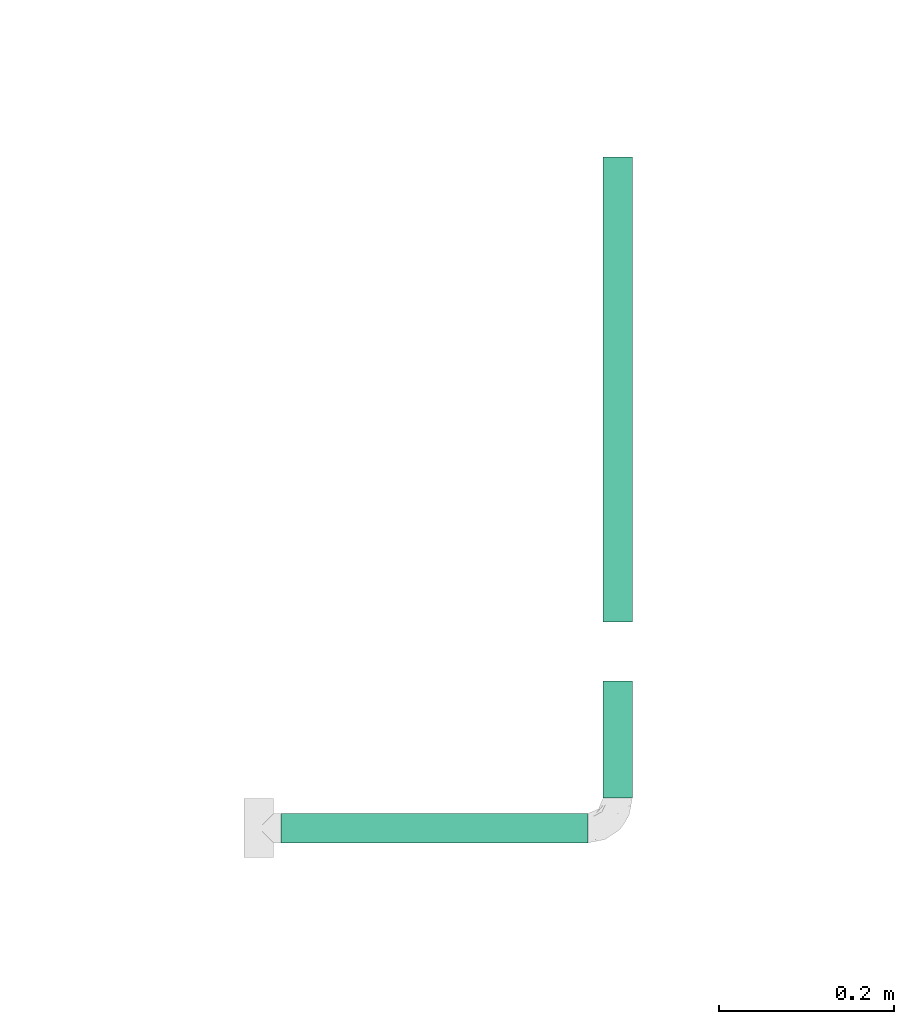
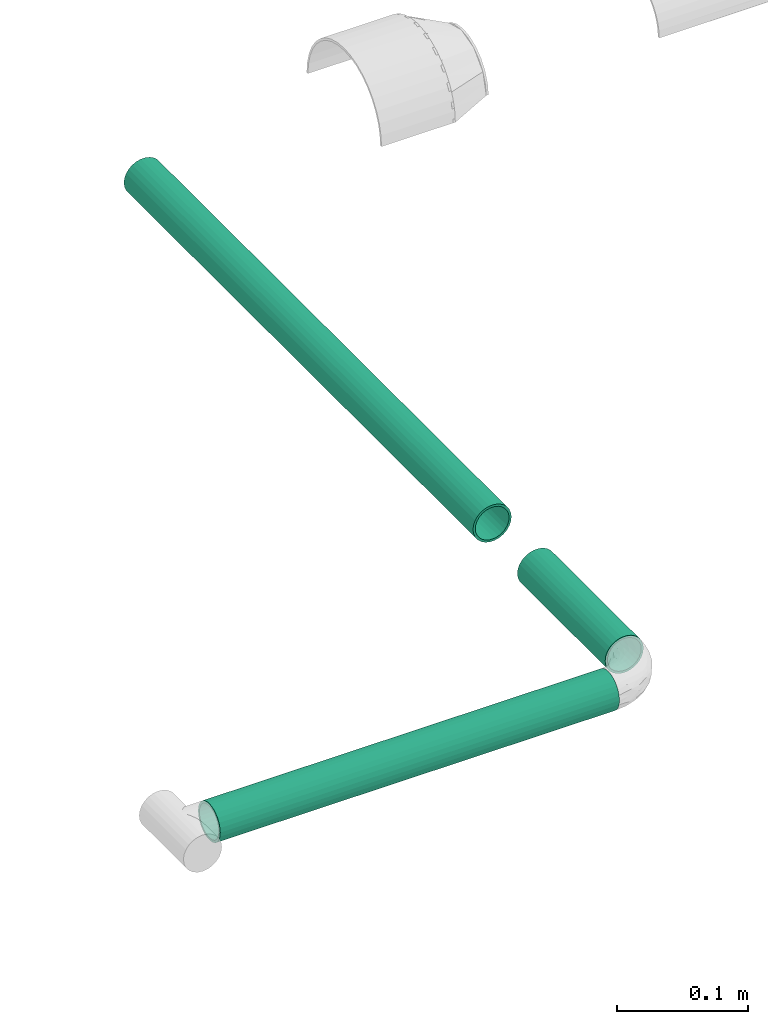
# One storey, part 14 of 63: 3 flow segments.
"""IFC2X3 building model written with IfcOpenShell, lengths in millimetres."""

import ifcopenshell
import ifcopenshell.guid

model = None  # the IFC model being written
_history = None  # IfcOwnerHistory: only IFC2X3 demands one
_inside = {}  # id of a spatial element -> (the spatial element, [elements in it])
_under = {}  # id of a project, library or spatial element -> (it, [spatial elements below it])
_declared = {}  # id of a project -> (the project, [libraries it declares])
_typed = {}  # id of a type object -> (the type object, [elements of that type])
_made_of = {}  # id of a material, layer set ... -> (it, [elements and type objects made of it])


def new_model(schema):
    """Start an empty IFC model of exactly this schema.

    Asked for "IFC4X3", IfcOpenShell would pick the latest addendum, in which some entities
    have other attributes; the version numbers below select the first issue.
    IFC2X3 requires an IfcOwnerHistory on every rooted entity: one is made here for all.
    """
    global model, _history
    if schema == "IFC4X3":
        model = ifcopenshell.file(schema_version=(4, 3, 0, 0))
    else:
        model = ifcopenshell.file(schema=schema)
    _inside.clear()
    _under.clear()
    _declared.clear()
    _typed.clear()
    _made_of.clear()
    _history = None
    if model.schema == "IFC2X3":
        org = make("IfcOrganization", Name="unknown")
        user = make(
            "IfcPersonAndOrganization",
            ThePerson=make("IfcPerson", FamilyName="unknown"),
            TheOrganization=org,
        )
        app = make(
            "IfcApplication",
            ApplicationDeveloper=org,
            Version="unknown",
            ApplicationFullName="unknown",
            ApplicationIdentifier="unknown",
        )
        _history = make(
            "IfcOwnerHistory",
            OwningUser=user,
            OwningApplication=app,
            ChangeAction="ADDED",
            CreationDate=0,
        )
    return model


def make(cls, **values):
    """One entity of the class cls with the attributes given. An attribute that is None is left unset."""
    return model.create_entity(
        cls, **{name: value for name, value in values.items() if value is not None}
    )


def entity(cls, *values):
    """Any entity or typed value of the class cls, its attributes in the order of the schema. None: left unset."""
    e = model.create_entity(cls)
    for i, value in enumerate(values):
        if value is not None:
            e[i] = value
    return e


def rooted(cls, **values):
    """An entity with a GlobalId (a new one), such as an element, a storey or a relation."""
    return make(cls, GlobalId=ifcopenshell.guid.new(), OwnerHistory=_history, **values)


def si_unit(unit_type, name, prefix=None):
    """IfcSIUnit, for example si_unit("LENGTHUNIT", "METRE", prefix="MILLI")."""
    return make("IfcSIUnit", UnitType=unit_type, Prefix=prefix, Name=name)


def converted_unit(unit_type, name, factor, base, dimensions=None, offset=None):
    """IfcConversionBasedUnit, such as the inch: factor (a typed value) times the base unit."""
    return make(
        "IfcConversionBasedUnit"
        if offset is None
        else "IfcConversionBasedUnitWithOffset",
        ConversionOffset=offset,
        Dimensions=None
        if dimensions is None
        else entity("IfcDimensionalExponents", *dimensions),
        UnitType=unit_type,
        Name=name,
        ConversionFactor=make(
            "IfcMeasureWithUnit", ValueComponent=factor, UnitComponent=base
        ),
    )


def derived_unit(unit_type, elements):
    """IfcDerivedUnit: a product of units, each with its exponent."""
    return make(
        "IfcDerivedUnit",
        Elements=[
            make("IfcDerivedUnitElement", Unit=unit, Exponent=power)
            for unit, power in elements
        ],
        UnitType=unit_type,
    )


def assignment(units):
    """IfcUnitAssignment: the units of a project."""
    return None if units is None else make("IfcUnitAssignment", Units=units)


def point(xyz):
    """IfcCartesianPoint."""
    return None if xyz is None else make("IfcCartesianPoint", Coordinates=xyz)


def direction(xyz):
    """IfcDirection."""
    return None if xyz is None else make("IfcDirection", DirectionRatios=xyz)


def frame(location, z_axis=None, x_axis=None):
    """IfcAxis2Placement3D, a coordinate frame: its origin and axes. An axis left out is left unset."""
    return make(
        "IfcAxis2Placement3D",
        Location=point(location),
        Axis=direction(z_axis),
        RefDirection=direction(x_axis),
    )


def frame_2d(location, x_axis=None):
    """IfcAxis2Placement2D, a coordinate frame in the plane: its origin and x axis."""
    return make(
        "IfcAxis2Placement2D", Location=point(location), RefDirection=direction(x_axis)
    )


def origin_with_axes():
    """The frame at (0, 0, 0) with the z axis (0, 0, 1) and the x axis (1, 0, 0) written out."""
    return frame((0.0, 0.0, 0.0), z_axis=(0.0, 0.0, 1.0), x_axis=(1.0, 0.0, 0.0))


def origin_2d_with_axis():
    """The frame at (0, 0) in the plane with the x axis (1, 0) written out."""
    return frame_2d((0.0, 0.0), x_axis=(1.0, 0.0))


def place(relative_to, where):
    """IfcLocalPlacement: puts the frame where relative to a parent placement (None: the world)."""
    return make(
        "IfcLocalPlacement", PlacementRelTo=relative_to, RelativePlacement=where
    )


def context(
    kind, dimensions, precision=None, world=None, true_north=None, identifier=None
):
    """IfcGeometricRepresentationContext, for example the 3D "Model" context."""
    return make(
        "IfcGeometricRepresentationContext",
        ContextIdentifier=identifier,
        ContextType=kind,
        CoordinateSpaceDimension=dimensions,
        Precision=precision,
        WorldCoordinateSystem=world,
        TrueNorth=true_north,
    )


def subcontext(parent, identifier, kind, view, scale=None):
    """IfcGeometricRepresentationSubContext, for example "Body" below "Model"."""
    return make(
        "IfcGeometricRepresentationSubContext",
        ContextIdentifier=identifier,
        ContextType=kind,
        ParentContext=parent,
        TargetScale=scale,
        TargetView=view,
    )


def project(units=None, contexts=None):
    """IfcProject with its units and contexts."""
    return rooted(
        "IfcProject",
        Name="project",
        RepresentationContexts=contexts,
        UnitsInContext=assignment(units),
    )


def spatial(cls, under=None, at=None, **own):
    """A site, building, storey or space (cls), placed at a placement, below another one or the project."""
    s = rooted(cls, ObjectPlacement=at, **own)
    if under is not None:
        _under.setdefault(under.id(), (under, []))[1].append(s)
    return s


def profile(cls, at=None, kind="AREA", **sizes):
    """A parametric profile (cls). Its sizes go by their IFC names, for example OverallWidth=200.0."""
    return make(cls, ProfileType=kind, Position=at, **sizes)


def hollow_circle(**sizes):
    """IfcCircleHollowProfileDef."""
    return profile("IfcCircleHollowProfileDef", **sizes)


def extrude(swept, where, along, depth):
    """IfcExtrudedAreaSolid: the profile swept, set in the frame where, extruded along a direction by depth."""
    return make(
        "IfcExtrudedAreaSolid",
        SweptArea=swept,
        Position=where,
        ExtrudedDirection=direction(along),
        Depth=depth,
    )


def shape(context_of_items, identifier, shape_type, items):
    """IfcShapeRepresentation: the items that make up one representation, for example the "Body"."""
    return make(
        "IfcShapeRepresentation",
        ContextOfItems=context_of_items,
        RepresentationIdentifier=identifier,
        RepresentationType=shape_type,
        Items=items,
    )


def source(mapping_origin, context_of_items, identifier, shape_type, items):
    """IfcRepresentationMap: a shape defined once, which mapped items show again and again."""
    return make(
        "IfcRepresentationMap",
        MappingOrigin=mapping_origin,
        MappedRepresentation=shape(context_of_items, identifier, shape_type, items),
    )


def transform(
    local_origin,
    x_axis=None,
    y_axis=None,
    z_axis=None,
    scale=None,
    scale2=None,
    scale3=None,
    uniform=True,
):
    """IfcCartesianTransformationOperator3D, or its non-uniform kind. x_axis, y_axis, z_axis: its Axis1, 2, 3."""
    if uniform:
        return make(
            "IfcCartesianTransformationOperator3D",
            Axis1=direction(x_axis),
            Axis2=direction(y_axis),
            LocalOrigin=point(local_origin),
            Scale=scale,
            Axis3=direction(z_axis),
        )
    return make(
        "IfcCartesianTransformationOperator3DnonUniform",
        Axis1=direction(x_axis),
        Axis2=direction(y_axis),
        LocalOrigin=point(local_origin),
        Scale=scale,
        Axis3=direction(z_axis),
        Scale2=scale2,
        Scale3=scale3,
    )


def mapped(mapping_source, mapping_target):
    """IfcMappedItem: shows the shape of a source again, moved by a transform."""
    return make(
        "IfcMappedItem", MappingSource=mapping_source, MappingTarget=mapping_target
    )


def made_of(thing, what):
    """Note that an element or type object is made of a material, layer set ...; save() writes the relation."""
    if what is not None:
        _made_of.setdefault(what.id(), (what, []))[1].append(thing)
    return thing


def type_object(cls, material=None, **own):
    """A type object (cls), such as IfcWallType, which elements share."""
    return made_of(rooted(cls, **own), material)


def element(
    cls,
    number,
    at=None,
    inside=None,
    cuts=None,
    type_object=None,
    material=None,
    context=None,
    identifier="Body",
    shape_type=None,
    held_by="IfcProductDefinitionShape",
    body=None,
    shapes=None,
    **own,
):
    """One element of the class cls, such as IfcWall. Its Tag is "e" and its number.

    at: its placement. inside: the storey or other place that contains it. cuts: it is an
    opening in that element (IfcRelVoidsElement). A single representation is given by context,
    identifier, shape_type and body (its items); several are given by shapes. held_by: the class
    of the entity that holds the representations. save() writes the other relations.
    """
    e = rooted(cls, Tag="e%d" % number, ObjectPlacement=at, **own)
    if body is not None:
        shapes = [shape(context, identifier, shape_type, body)]
    if shapes is not None:
        e.Representation = make(held_by, Representations=shapes)
    if inside is not None:
        _inside.setdefault(inside.id(), (inside, []))[1].append(e)
    if cuts is not None:
        rooted(
            "IfcRelVoidsElement", RelatingBuildingElement=cuts, RelatedOpeningElement=e
        )
    if type_object is not None:
        _typed.setdefault(type_object.id(), (type_object, []))[1].append(e)
    return made_of(e, material)


def aggregate(whole, parts):
    """IfcRelAggregates: a whole, such as a stair, and the parts it consists of."""
    return rooted("IfcRelAggregates", RelatingObject=whole, RelatedObjects=parts)


def save(model, path):
    """Write the relations noted so far, then the file.

    IfcRelAggregates (storeys below a building ...), IfcRelContainedInSpatialStructure (elements
    in a storey), IfcRelDefinesByType, IfcRelAssociatesMaterial and IfcRelDeclares: one each for
    every whole, place, type object, material and project.
    """
    for whole, parts in _under.values():
        aggregate(whole, parts)
    for where, things in _inside.values():
        rooted(
            "IfcRelContainedInSpatialStructure",
            RelatedElements=things,
            RelatingStructure=where,
        )
    for kind, things in _typed.values():
        rooted("IfcRelDefinesByType", RelatedObjects=things, RelatingType=kind)
    for what, things in _made_of.values():
        rooted("IfcRelAssociatesMaterial", RelatedObjects=things, RelatingMaterial=what)
    for by, libraries in _declared.values():
        rooted("IfcRelDeclares", RelatingContext=by, RelatedDefinitions=libraries)
    model.write(path)


model = new_model("IFC2X3")

# Units and contexts
model_context = context("Model", 3, precision=0.01, world=frame((0.0, 4.29681676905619e-09, 0.0)), true_north=direction((4.01073788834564e-13, 1.0)))
plan_context = context("Plan", 3, precision=0.01, world=frame((0.0, 4.29681676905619e-09, 0.0)), true_north=direction((4.01073788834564e-13, 1.0)))
body_context = subcontext(model_context, "Body", "Model", "MODEL_VIEW")
ifc_project = project(units=[converted_unit("PLANEANGLEUNIT", "DEGREE", entity("IfcPositiveLengthMeasure", 0.0174532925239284), si_unit("PLANEANGLEUNIT", "RADIAN"), dimensions=[0, 0, 0, 0, 0, 0, 0]), si_unit("AREAUNIT", "SQUARE_METRE"), si_unit("LENGTHUNIT", "METRE", prefix="MILLI"), si_unit("MASSUNIT", "GRAM", prefix="KILO"), si_unit("POWERUNIT", "WATT"), si_unit("PRESSUREUNIT", "PASCAL", prefix="KILO"), si_unit("FORCEUNIT", "NEWTON", prefix="KILO"), si_unit("ELECTRICVOLTAGEUNIT", "VOLT"), si_unit("ELECTRICCURRENTUNIT", "AMPERE"), si_unit("THERMODYNAMICTEMPERATUREUNIT", "DEGREE_CELSIUS"), si_unit("TIMEUNIT", "SECOND"), si_unit("VOLUMEUNIT", "CUBIC_METRE"), derived_unit("LINEARVELOCITYUNIT", [(si_unit("LENGTHUNIT", "METRE"), 1), (si_unit("TIMEUNIT", "SECOND"), -1)]), derived_unit("VOLUMETRICFLOWRATEUNIT", [(si_unit("VOLUMEUNIT", "CUBIC_METRE"), 1), (si_unit("TIMEUNIT", "SECOND"), -1)]), derived_unit("THERMALTRANSMITTANCEUNIT", [(si_unit("POWERUNIT", "WATT"), 1), (si_unit("THERMODYNAMICTEMPERATUREUNIT", "KELVIN"), -1), (si_unit("AREAUNIT", "SQUARE_METRE"), -1)]), derived_unit("SOUNDPRESSUREUNIT", [(si_unit("PRESSUREUNIT", "PASCAL"), 1)])], contexts=[model_context, plan_context])

# Site, building, storey
site_placement = place(None, frame((0.0, -4.29681676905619e-09, 0.0), z_axis=(0.0, 0.0, 1.0), x_axis=(1.0, 0.0, 0.0)))
site = spatial("IfcSite", under=ifc_project, at=site_placement, CompositionType="ELEMENT")
building_placement = place(site_placement, frame((0.0, 4.29681676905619e-09, 0.0), z_axis=(0.0, 0.0, 1.0), x_axis=(1.0, 0.0, 0.0)))
building = spatial("IfcBuilding", under=site, at=building_placement, Name="mc-building", CompositionType="ELEMENT")
storey_placement = place(building_placement, frame((0.0, 0.0, 207370.0), z_axis=(0.0, 0.0, 1.0), x_axis=(1.0, 0.0, 0.0)))
storey = spatial("IfcBuildingStorey", under=building, at=storey_placement, Name="Nivå E", CompositionType="ELEMENT", Elevation=207370.0)

# Flow segments
pipe_segment_type = type_object("IfcPipeSegmentType", Name="Stålrør normaltykke", PredefinedType="RIGIDSEGMENT")
shared_shape_1 = source(origin_with_axes(), body_context, "Body", "SweptSolid", [
    extrude(hollow_circle(Radius=16.9, WallThickness=2.0, at=origin_2d_with_axis()), frame((0.0, 0.0, 0.0), z_axis=(1.0, 0.0, 0.0), x_axis=(0.0, 1.0, 0.0)), (0.0, 0.0, 1.0), 133.9),
])
flow_segment_1_placement = place(storey_placement, frame((725000.0, 436166.2, 7130.0), z_axis=(0.0, 0.0, 1.0), x_axis=(0.0, -1.0, 0.0)))
element("IfcFlowSegment", 1, at=flow_segment_1_placement, inside=storey, type_object=pipe_segment_type, Name="Stålrør normaltykke", context=body_context, shape_type="MappedRepresentation", body=[
    mapped(shared_shape_1, transform((0.0, 0.0, 0.0), scale=1.0)),
])
shared_shape_2 = source(origin_with_axes(), body_context, "Body", "SweptSolid", [
    extrude(hollow_circle(Radius=16.9, WallThickness=2.0, at=origin_2d_with_axis()), frame((0.0, 0.0, 0.0), z_axis=(1.0, 0.0, 0.0), x_axis=(0.0, 1.0, 0.0)), (0.0, 0.0, 1.0), 351.5),
])
flow_segment_2_placement = place(storey_placement, frame((724966.2, 435998.03458, 7130.0), z_axis=(0.0, 0.0, 1.0), x_axis=(-1.0, 0.0, 0.0)))
element("IfcFlowSegment", 2, at=flow_segment_2_placement, inside=storey, type_object=pipe_segment_type, Name="Stålrør normaltykke", context=body_context, shape_type="MappedRepresentation", body=[
    mapped(shared_shape_2, transform((0.0, 0.0, 0.0), scale=1.0)),
])
shared_shape_3 = source(origin_with_axes(), body_context, "Body", "SweptSolid", [
    extrude(hollow_circle(Radius=16.9, WallThickness=2.0, at=origin_2d_with_axis()), frame((0.0, 0.0, 0.0), z_axis=(1.0, 0.0, 0.0), x_axis=(0.0, 1.0, 0.0)), (0.0, 0.0, 1.0), 532.4),
])
flow_segment_3_placement = place(storey_placement, frame((725000.0, 436766.2, 7130.0), z_axis=(0.0, 0.0, 1.0), x_axis=(0.0, -1.0, 0.0)))
element("IfcFlowSegment", 3, at=flow_segment_3_placement, inside=storey, type_object=pipe_segment_type, Name="Stålrør normaltykke", context=body_context, shape_type="MappedRepresentation", body=[
    mapped(shared_shape_3, transform((0.0, 0.0, 0.0), scale=1.0)),
])

save(model, "model.ifc")
